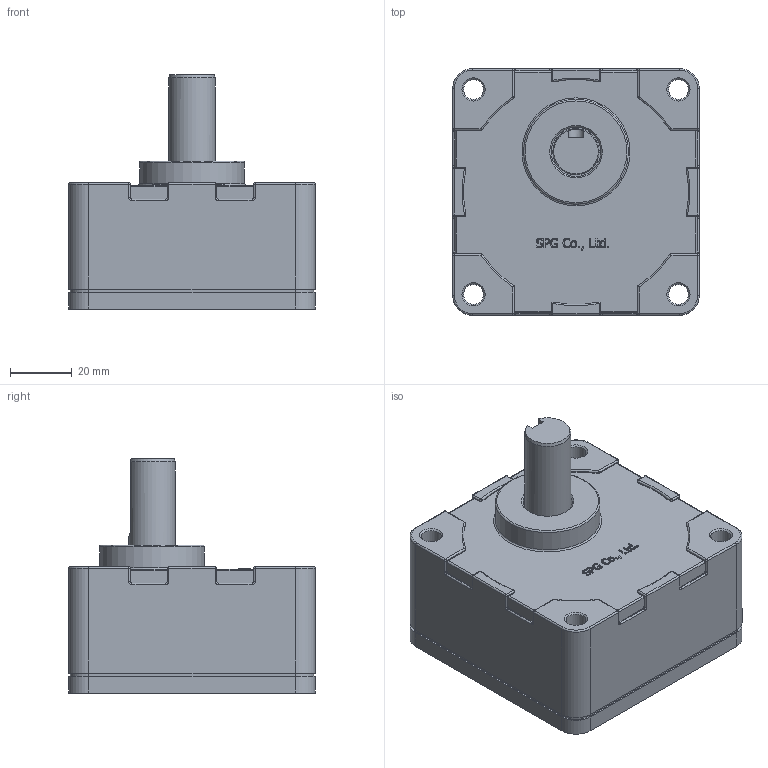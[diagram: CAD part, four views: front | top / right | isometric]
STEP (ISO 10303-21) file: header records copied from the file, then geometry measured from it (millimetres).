
FILE_DESCRIPTION((''),'2;1');
FILE_NAME('C:\Documents and Settings\Administrator\바탕 화면\BLDC 3D FILE\GEAR HEAD ASS''Y\60\XTG85K~XTG820K.stp','2014-06-19T12:44:53',('kdhkdh'),(''),'Autodesk Inventor 2011','Autodesk Inventor 2011','');
FILE_SCHEMA(('AUTOMOTIVE_DESIGN { 1 0 10303 214 1 1 1 1 }'));
Length unit declared in the file: millimetre
Products named in the file (1): 부품6
Bounding box: 80 x 80 x 76 mm (x, y, z)
Volume: 251260.7 mm3; surface area: 33293.7 mm2
Topology: 1 solids, 1 shells, 449 faces, 1125 edges, 681 vertices
Faces by surface type: plane 152, cylinder 140, bspline 81, sphere 32, torus 30, cone 14
Full cylindrical faces by diameter (mm): 3 x2, 4 x4, 4.3 x4, 6.5 x8, 7.5 x1, 8 x4, 15 x1, 16 x1, 34 x1, 73 x1
Entity records: 13324 total; most frequent: CARTESIAN_POINT 3340, ORIENTED_EDGE 2072, DIRECTION 1941, EDGE_CURVE 1036, AXIS2_PLACEMENT_3D 704, VERTEX_POINT 666, EDGE_LOOP 534, VECTOR 533
